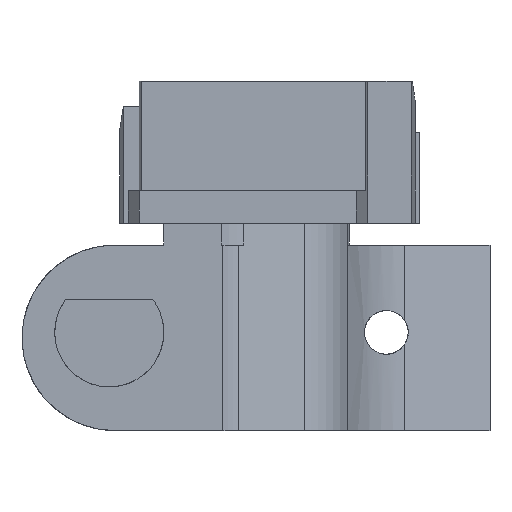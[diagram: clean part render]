
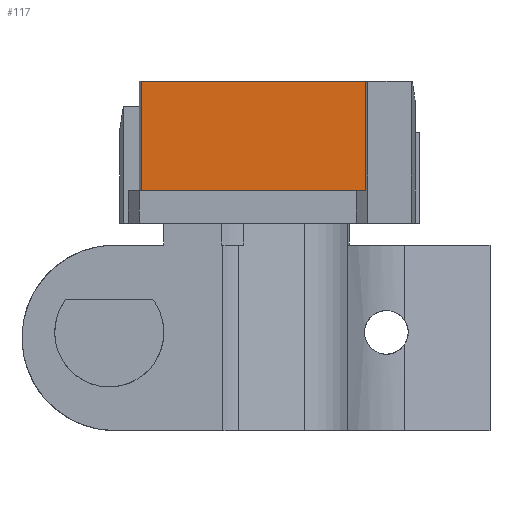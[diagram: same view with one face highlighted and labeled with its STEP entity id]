
A CAD part, front view. The second image highlights one B-rep face of the part: STEP entity #117.
In plain terms, the highlighted planar face has unit normal (0, -1, 0).
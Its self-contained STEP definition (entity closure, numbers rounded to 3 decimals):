
#54 = EDGE_LOOP ( 'NONE', ( #103, #205, #220, #201 ) ) ;
#103 = ORIENTED_EDGE ( 'NONE', *, *, #194, .T. ) ;
#117 = ADVANCED_FACE ( 'NONE', ( #6569 ), #6551, .T. ) ;
#183 = VERTEX_POINT ( 'NONE', #5615 ) ;
#185 = VERTEX_POINT ( 'NONE', #5064 ) ;
#190 = EDGE_CURVE ( 'NONE', #223, #229, #1340, .T. ) ;
#194 = EDGE_CURVE ( 'NONE', #185, #183, #1336, .T. ) ;
#201 = ORIENTED_EDGE ( 'NONE', *, *, #209, .T. ) ;
#205 = ORIENTED_EDGE ( 'NONE', *, *, #238, .T. ) ;
#209 = EDGE_CURVE ( 'NONE', #229, #185, #1342, .T. ) ;
#220 = ORIENTED_EDGE ( 'NONE', *, *, #190, .T. ) ;
#223 = VERTEX_POINT ( 'NONE', #1476 ) ;
#229 = VERTEX_POINT ( 'NONE', #1445 ) ;
#238 = EDGE_CURVE ( 'NONE', #183, #223, #1463, .T. ) ;
#1336 = LINE ( 'NONE', #1338, #1337 ) ;
#1337 = VECTOR ( 'NONE', #1346, 1000. ) ;
#1338 = CARTESIAN_POINT ( 'NONE',  ( 10.266, -22.031, 36.1 ) ) ;
#1339 = CARTESIAN_POINT ( 'NONE',  ( 10.266, -22.031, 46.1 ) ) ;
#1340 = LINE ( 'NONE', #1339, #1341 ) ;
#1341 = VECTOR ( 'NONE', #1343, 1000. ) ;
#1342 = LINE ( 'NONE', #1344, #1350 ) ;
#1343 = DIRECTION ( 'NONE',  ( -1., 0., 0. ) ) ;
#1344 = CARTESIAN_POINT ( 'NONE',  ( -10.28, -22.031, 36.1 ) ) ;
#1346 = DIRECTION ( 'NONE',  ( 1., 0., 0. ) ) ;
#1347 = DIRECTION ( 'NONE',  ( 0., 0., -1. ) ) ;
#1350 = VECTOR ( 'NONE', #1347, 1000. ) ;
#1432 = DIRECTION ( 'NONE',  ( 0., 0., 1. ) ) ;
#1445 = CARTESIAN_POINT ( 'NONE',  ( -10.28, -22.031, 46.1 ) ) ;
#1462 = CARTESIAN_POINT ( 'NONE',  ( 10.266, -22.031, 36.1 ) ) ;
#1463 = LINE ( 'NONE', #1462, #1490 ) ;
#1476 = CARTESIAN_POINT ( 'NONE',  ( 10.266, -22.031, 46.1 ) ) ;
#1490 = VECTOR ( 'NONE', #1432, 1000. ) ;
#5064 = CARTESIAN_POINT ( 'NONE',  ( -10.28, -22.031, 36.1 ) ) ;
#5615 = CARTESIAN_POINT ( 'NONE',  ( 10.266, -22.031, 36.1 ) ) ;
#6542 = CARTESIAN_POINT ( 'NONE',  ( 10.266, -22.031, 36.1 ) ) ;
#6551 = PLANE ( 'NONE',  #6568 ) ;
#6568 = AXIS2_PLACEMENT_3D ( 'NONE', #6542, #6570, #6571 ) ;
#6569 = FACE_OUTER_BOUND ( 'NONE', #54, .T. ) ;
#6570 = DIRECTION ( 'NONE',  ( 0., -1., 0. ) ) ;
#6571 = DIRECTION ( 'NONE',  ( 0., 0., -1. ) ) ;
